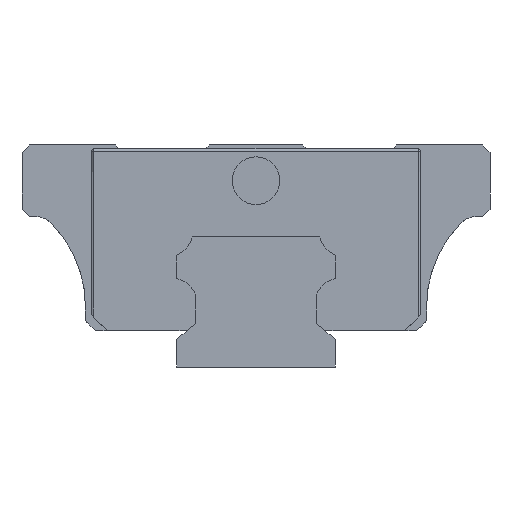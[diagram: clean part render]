
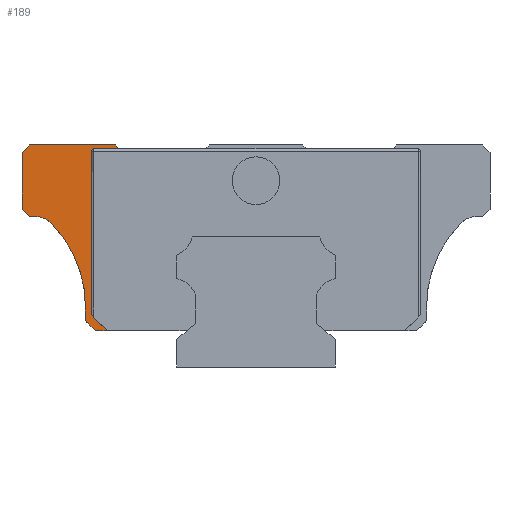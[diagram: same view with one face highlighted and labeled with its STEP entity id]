
A CAD part, left-side view. The second image highlights one B-rep face of the part: STEP entity #189.
In plain terms, the highlighted planar face has unit normal (-1, 0, 0).
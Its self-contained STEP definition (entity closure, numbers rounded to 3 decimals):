
#95 = CARTESIAN_POINT ( 'NONE',  ( -13.9, 29.5, 19.9 ) ) ;
#154 = CARTESIAN_POINT ( 'NONE',  ( -13.9, -20.542, 27.5 ) ) ;
#166 = CARTESIAN_POINT ( 'NONE',  ( -13.9, 20.457, 27.5 ) ) ;
#170 = LINE ( 'NONE', #4110, #562 ) ;
#189 = ADVANCED_FACE ( 'NONE', ( #5468 ), #1678, .T. ) ;
#260 = EDGE_CURVE ( 'NONE', #858, #1110, #170, .T. ) ;
#557 = VERTEX_POINT ( 'NONE', #95 ) ;
#562 = VECTOR ( 'NONE', #1202, 1000. ) ;
#715 = VERTEX_POINT ( 'NONE', #166 ) ;
#733 = CARTESIAN_POINT ( 'NONE',  ( -13.9, 27.93, 19. ) ) ;
#760 = CARTESIAN_POINT ( 'NONE',  ( -13.9, 29.5, 28. ) ) ;
#858 = VERTEX_POINT ( 'NONE', #3723 ) ;
#909 = ORIENTED_EDGE ( 'NONE', *, *, #2193, .F. ) ;
#968 = ORIENTED_EDGE ( 'NONE', *, *, #260, .T. ) ;
#1110 = VERTEX_POINT ( 'NONE', #5714 ) ;
#1146 = DIRECTION ( 'NONE',  ( 0., 0.643, 0.766 ) ) ;
#1179 = EDGE_CURVE ( 'NONE', #4038, #2853, #4849, .T. ) ;
#1202 = DIRECTION ( 'NONE',  ( 0., -1., 0. ) ) ;
#1293 = CARTESIAN_POINT ( 'NONE',  ( -13.9, 36.5, 7.6 ) ) ;
#1403 = ORIENTED_EDGE ( 'NONE', *, *, #3154, .T. ) ;
#1416 = CARTESIAN_POINT ( 'NONE',  ( -13.9, 17.28, 27.5 ) ) ;
#1439 = LINE ( 'NONE', #3689, #2619 ) ;
#1515 = CARTESIAN_POINT ( 'NONE',  ( -13.9, 29.5, 27.05 ) ) ;
#1523 = DIRECTION ( 'NONE',  ( 1., 0., 0. ) ) ;
#1550 = DIRECTION ( 'NONE',  ( 0., 0.707, -0.707 ) ) ;
#1634 = CARTESIAN_POINT ( 'NONE',  ( -13.9, 20.457, 27.205 ) ) ;
#1668 = CARTESIAN_POINT ( 'NONE',  ( -13.9, 27.93, 16. ) ) ;
#1678 = PLANE ( 'NONE',  #6262 ) ;
#1813 = EDGE_LOOP ( 'NONE', ( #7231, #1403, #3113, #4347, #2333, #3206, #968, #3835, #4641, #3859, #909, #2900, #7080, #7106, #5922 ) ) ;
#1931 = AXIS2_PLACEMENT_3D ( 'NONE', #1634, #1523, #2147 ) ;
#2083 = CARTESIAN_POINT ( 'NONE',  ( -13.9, 20.752, 26.875 ) ) ;
#2147 = DIRECTION ( 'NONE',  ( 0., 0., 1. ) ) ;
#2193 = EDGE_CURVE ( 'NONE', #6425, #715, #5196, .T. ) ;
#2196 = DIRECTION ( 'NONE',  ( -1., 0., 0. ) ) ;
#2250 = LINE ( 'NONE', #6193, #5908 ) ;
#2333 = ORIENTED_EDGE ( 'NONE', *, *, #5570, .T. ) ;
#2400 = DIRECTION ( 'NONE',  ( 0., 1., 0. ) ) ;
#2539 = VERTEX_POINT ( 'NONE', #733 ) ;
#2597 = DIRECTION ( 'NONE',  ( 0., 0., -1. ) ) ;
#2619 = VECTOR ( 'NONE', #5930, 1000. ) ;
#2620 = EDGE_CURVE ( 'NONE', #7025, #858, #4291, .T. ) ;
#2639 = DIRECTION ( 'NONE',  ( 0., 1., 0. ) ) ;
#2765 = CARTESIAN_POINT ( 'NONE',  ( -13.9, 17.228, 27.438 ) ) ;
#2771 = VERTEX_POINT ( 'NONE', #3327 ) ;
#2775 = EDGE_CURVE ( 'NONE', #4968, #7143, #3956, .T. ) ;
#2798 = CARTESIAN_POINT ( 'NONE',  ( -13.9, 29.5, 19.9 ) ) ;
#2853 = VERTEX_POINT ( 'NONE', #6163 ) ;
#2900 = ORIENTED_EDGE ( 'NONE', *, *, #6895, .T. ) ;
#2956 = CARTESIAN_POINT ( 'NONE',  ( -13.9, 20.752, 27.205 ) ) ;
#2963 = VECTOR ( 'NONE', #2639, 1000. ) ;
#2995 = AXIS2_PLACEMENT_3D ( 'NONE', #1293, #3544, #5787 ) ;
#2997 = EDGE_CURVE ( 'NONE', #7143, #6816, #4614, .T. ) ;
#3082 = VECTOR ( 'NONE', #2400, 1000. ) ;
#3113 = ORIENTED_EDGE ( 'NONE', *, *, #6613, .T. ) ;
#3146 = LINE ( 'NONE', #5392, #6223 ) ;
#3154 = EDGE_CURVE ( 'NONE', #2771, #2539, #2250, .T. ) ;
#3206 = ORIENTED_EDGE ( 'NONE', *, *, #2620, .T. ) ;
#3224 = VERTEX_POINT ( 'NONE', #4500 ) ;
#3327 = CARTESIAN_POINT ( 'NONE',  ( -13.9, 28.6, 19. ) ) ;
#3337 = DIRECTION ( 'NONE',  ( 0., 0., 1. ) ) ;
#3404 = CARTESIAN_POINT ( 'NONE',  ( -13.9, 17.7, 28. ) ) ;
#3544 = DIRECTION ( 'NONE',  ( 1., 0., 0. ) ) ;
#3551 = EDGE_CURVE ( 'NONE', #2853, #1110, #1439, .T. ) ;
#3596 = VECTOR ( 'NONE', #6266, 1000. ) ;
#3689 = CARTESIAN_POINT ( 'NONE',  ( -13.9, 20.752, 6.6 ) ) ;
#3723 = CARTESIAN_POINT ( 'NONE',  ( -13.9, 20.25, 4.6 ) ) ;
#3789 = VECTOR ( 'NONE', #1550, 1000. ) ;
#3816 = CIRCLE ( 'NONE', #1931, 0.295 ) ;
#3835 = ORIENTED_EDGE ( 'NONE', *, *, #3551, .F. ) ;
#3859 = ORIENTED_EDGE ( 'NONE', *, *, #6499, .T. ) ;
#3871 = LINE ( 'NONE', #2765, #5122 ) ;
#3934 = VECTOR ( 'NONE', #6353, 1000. ) ;
#3956 = LINE ( 'NONE', #3404, #2963 ) ;
#4010 = CARTESIAN_POINT ( 'NONE',  ( -13.9, 21.5, 7.6 ) ) ;
#4020 = LINE ( 'NONE', #2798, #3596 ) ;
#4038 = VERTEX_POINT ( 'NONE', #2956 ) ;
#4109 = LINE ( 'NONE', #760, #3934 ) ;
#4110 = CARTESIAN_POINT ( 'NONE',  ( -13.9, 18.542, 4.6 ) ) ;
#4140 = VECTOR ( 'NONE', #5852, 1000. ) ;
#4291 = LINE ( 'NONE', #6535, #4140 ) ;
#4334 = CARTESIAN_POINT ( 'NONE',  ( -13.9, 28.55, 28. ) ) ;
#4347 = ORIENTED_EDGE ( 'NONE', *, *, #7036, .T. ) ;
#4468 = DIRECTION ( 'NONE',  ( 0., 0., 1. ) ) ;
#4500 = CARTESIAN_POINT ( 'NONE',  ( -13.9, 25.788, 18.1 ) ) ;
#4614 = LINE ( 'NONE', #7107, #3789 ) ;
#4641 = ORIENTED_EDGE ( 'NONE', *, *, #1179, .F. ) ;
#4849 = LINE ( 'NONE', #2083, #5119 ) ;
#4968 = VERTEX_POINT ( 'NONE', #6877 ) ;
#4992 = CIRCLE ( 'NONE', #5580, 3. ) ;
#5034 = CARTESIAN_POINT ( 'NONE',  ( -13.9, 0., 17.29 ) ) ;
#5119 = VECTOR ( 'NONE', #6538, 1000. ) ;
#5122 = VECTOR ( 'NONE', #1146, 1000. ) ;
#5196 = LINE ( 'NONE', #154, #3082 ) ;
#5392 = CARTESIAN_POINT ( 'NONE',  ( -13.9, 21.5, 7.6 ) ) ;
#5468 = FACE_OUTER_BOUND ( 'NONE', #1813, .T. ) ;
#5570 = EDGE_CURVE ( 'NONE', #5762, #7025, #3146, .T. ) ;
#5580 = AXIS2_PLACEMENT_3D ( 'NONE', #1668, #6201, #4468 ) ;
#5684 = DIRECTION ( 'NONE',  ( 0., -1., 0. ) ) ;
#5714 = CARTESIAN_POINT ( 'NONE',  ( -13.9, 18.752, 4.6 ) ) ;
#5762 = VERTEX_POINT ( 'NONE', #4010 ) ;
#5787 = DIRECTION ( 'NONE',  ( 0., 0., 1. ) ) ;
#5852 = DIRECTION ( 'NONE',  ( 0., -0.707, -0.707 ) ) ;
#5908 = VECTOR ( 'NONE', #5684, 1000. ) ;
#5922 = ORIENTED_EDGE ( 'NONE', *, *, #6463, .T. ) ;
#5930 = DIRECTION ( 'NONE',  ( 0., -0.707, -0.707 ) ) ;
#6163 = CARTESIAN_POINT ( 'NONE',  ( -13.9, 20.752, 6.6 ) ) ;
#6171 = CIRCLE ( 'NONE', #2995, 15. ) ;
#6193 = CARTESIAN_POINT ( 'NONE',  ( -13.9, 28.6, 19. ) ) ;
#6201 = DIRECTION ( 'NONE',  ( 1., 0., 0. ) ) ;
#6223 = VECTOR ( 'NONE', #2597, 1000. ) ;
#6262 = AXIS2_PLACEMENT_3D ( 'NONE', #5034, #2196, #3337 ) ;
#6266 = DIRECTION ( 'NONE',  ( 0., -0.707, -0.707 ) ) ;
#6335 = CARTESIAN_POINT ( 'NONE',  ( -13.9, 21.5, 5.85 ) ) ;
#6353 = DIRECTION ( 'NONE',  ( 0., 0., -1. ) ) ;
#6425 = VERTEX_POINT ( 'NONE', #1416 ) ;
#6463 = EDGE_CURVE ( 'NONE', #6816, #557, #4109, .T. ) ;
#6499 = EDGE_CURVE ( 'NONE', #4038, #715, #3816, .T. ) ;
#6535 = CARTESIAN_POINT ( 'NONE',  ( -13.9, 21.5, 5.85 ) ) ;
#6538 = DIRECTION ( 'NONE',  ( 0., 0., -1. ) ) ;
#6613 = EDGE_CURVE ( 'NONE', #2539, #3224, #4992, .T. ) ;
#6816 = VERTEX_POINT ( 'NONE', #1515 ) ;
#6877 = CARTESIAN_POINT ( 'NONE',  ( -13.9, 17.7, 28. ) ) ;
#6895 = EDGE_CURVE ( 'NONE', #6425, #4968, #3871, .T. ) ;
#6938 = EDGE_CURVE ( 'NONE', #557, #2771, #4020, .T. ) ;
#7025 = VERTEX_POINT ( 'NONE', #6335 ) ;
#7036 = EDGE_CURVE ( 'NONE', #3224, #5762, #6171, .T. ) ;
#7080 = ORIENTED_EDGE ( 'NONE', *, *, #2775, .T. ) ;
#7106 = ORIENTED_EDGE ( 'NONE', *, *, #2997, .T. ) ;
#7107 = CARTESIAN_POINT ( 'NONE',  ( -13.9, 28.55, 28. ) ) ;
#7143 = VERTEX_POINT ( 'NONE', #4334 ) ;
#7231 = ORIENTED_EDGE ( 'NONE', *, *, #6938, .T. ) ;
